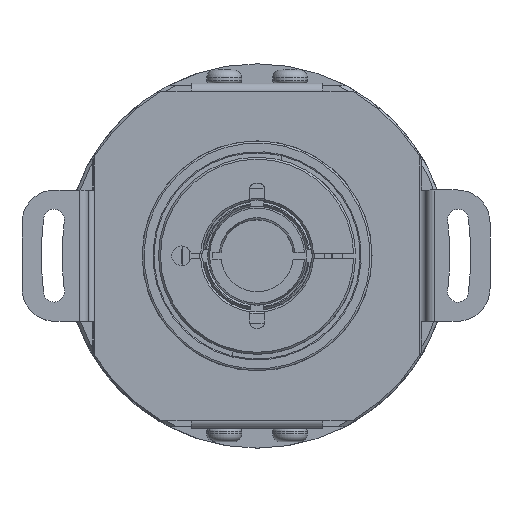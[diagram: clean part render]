
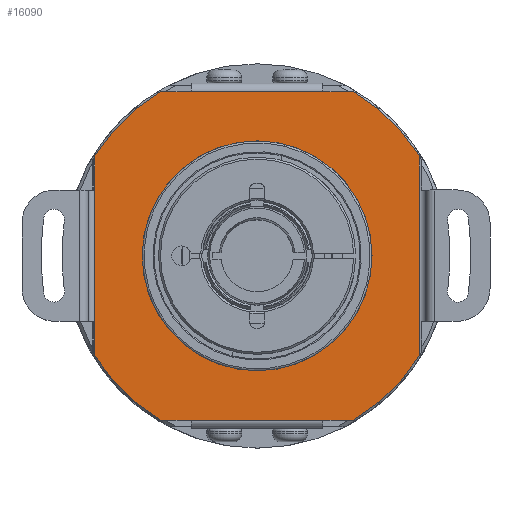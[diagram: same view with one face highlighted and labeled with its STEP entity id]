
A CAD part, top view. The second image highlights one B-rep face of the part: STEP entity #16090.
In plain terms, the highlighted planar face has unit normal (0, 0, 1).
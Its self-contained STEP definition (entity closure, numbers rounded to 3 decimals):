
#266 = PLANE ( 'NONE',  #874 ) ;
#649 = CARTESIAN_POINT ( 'NONE',  ( -10., 25., 4.194 ) ) ;
#874 = AXIS2_PLACEMENT_3D ( 'NONE', #9597, #1871, #12854 ) ;
#1492 = ORIENTED_EDGE ( 'NONE', *, *, #15946, .T. ) ;
#1498 = CARTESIAN_POINT ( 'NONE',  ( -25., -25., 4.194 ) ) ;
#1514 = DIRECTION ( 'NONE',  ( 1., 0., 0. ) ) ;
#1695 = EDGE_CURVE ( 'NONE', #3533, #19803, #9792, .T. ) ;
#1871 = DIRECTION ( 'NONE',  ( 0., 0., 1. ) ) ;
#1934 = CARTESIAN_POINT ( 'NONE',  ( -24.7, 15.196, 4.194 ) ) ;
#1942 = VECTOR ( 'NONE', #12428, 1000. ) ;
#2031 = VERTEX_POINT ( 'NONE', #4953 ) ;
#2106 = ORIENTED_EDGE ( 'NONE', *, *, #6772, .F. ) ;
#2442 = DIRECTION ( 'NONE',  ( 0., 0., 1. ) ) ;
#2524 = EDGE_CURVE ( 'NONE', #10162, #5973, #2688, .T. ) ;
#2688 = LINE ( 'NONE', #17713, #13723 ) ;
#2722 = LINE ( 'NONE', #9016, #14723 ) ;
#2798 = CARTESIAN_POINT ( 'NONE',  ( -24.7, -15.196, 4.194 ) ) ;
#3388 = AXIS2_PLACEMENT_3D ( 'NONE', #9255, #20204, #10864 ) ;
#3533 = VERTEX_POINT ( 'NONE', #17131 ) ;
#3625 = EDGE_CURVE ( 'NONE', #19847, #12250, #6088, .T. ) ;
#3718 = CARTESIAN_POINT ( 'NONE',  ( 0., 0., 4.194 ) ) ;
#3719 = EDGE_CURVE ( 'NONE', #19464, #9636, #4611, .T. ) ;
#3830 = EDGE_CURVE ( 'NONE', #19803, #3533, #19294, .T. ) ;
#3934 = EDGE_CURVE ( 'NONE', #11579, #10162, #17347, .T. ) ;
#3940 = ORIENTED_EDGE ( 'NONE', *, *, #3625, .T. ) ;
#4365 = ORIENTED_EDGE ( 'NONE', *, *, #16796, .F. ) ;
#4506 = LINE ( 'NONE', #7232, #20177 ) ;
#4611 = LINE ( 'NONE', #15769, #8786 ) ;
#4632 = CARTESIAN_POINT ( 'NONE',  ( 10., -25., 4.194 ) ) ;
#4799 = DIRECTION ( 'NONE',  ( 0., 1., 0. ) ) ;
#4953 = CARTESIAN_POINT ( 'NONE',  ( -14.697, -25., 4.194 ) ) ;
#5296 = DIRECTION ( 'NONE',  ( 0., 1., 0. ) ) ;
#5973 = VERTEX_POINT ( 'NONE', #18427 ) ;
#6049 = EDGE_CURVE ( 'NONE', #19847, #13603, #13370, .T. ) ;
#6088 = LINE ( 'NONE', #6094, #1942 ) ;
#6094 = CARTESIAN_POINT ( 'NONE',  ( -5., 25., 4.194 ) ) ;
#6232 = DIRECTION ( 'NONE',  ( -1., 0., 0. ) ) ;
#6548 = AXIS2_PLACEMENT_3D ( 'NONE', #20270, #10937, #1514 ) ;
#6685 = EDGE_CURVE ( 'NONE', #9636, #17039, #13350, .T. ) ;
#6772 = EDGE_CURVE ( 'NONE', #16097, #11579, #7695, .T. ) ;
#6839 = ORIENTED_EDGE ( 'NONE', *, *, #13891, .F. ) ;
#7004 = CARTESIAN_POINT ( 'NONE',  ( 10., 25., 4.194 ) ) ;
#7232 = CARTESIAN_POINT ( 'NONE',  ( 24.7, -35.2, 4.194 ) ) ;
#7512 = ORIENTED_EDGE ( 'NONE', *, *, #13270, .T. ) ;
#7695 = CIRCLE ( 'NONE', #18717, 29. ) ;
#7928 = ORIENTED_EDGE ( 'NONE', *, *, #1695, .F. ) ;
#8292 = DIRECTION ( 'NONE',  ( 0., 0., 1. ) ) ;
#8345 = DIRECTION ( 'NONE',  ( -1., 0., 0. ) ) ;
#8447 = CARTESIAN_POINT ( 'NONE',  ( 0., -17.5, 4.194 ) ) ;
#8622 = CIRCLE ( 'NONE', #3388, 29. ) ;
#8646 = DIRECTION ( 'NONE',  ( 0., 0., -1. ) ) ;
#8691 = ORIENTED_EDGE ( 'NONE', *, *, #6049, .F. ) ;
#8786 = VECTOR ( 'NONE', #4799, 1000. ) ;
#8865 = CARTESIAN_POINT ( 'NONE',  ( 14.697, -25., 4.194 ) ) ;
#9016 = CARTESIAN_POINT ( 'NONE',  ( -10., 25., 4.194 ) ) ;
#9182 = VECTOR ( 'NONE', #18621, 1000. ) ;
#9255 = CARTESIAN_POINT ( 'NONE',  ( 0., 0., 4.194 ) ) ;
#9597 = CARTESIAN_POINT ( 'NONE',  ( -5., -35.2, 4.194 ) ) ;
#9636 = VERTEX_POINT ( 'NONE', #1934 ) ;
#9692 = CARTESIAN_POINT ( 'NONE',  ( -14.697, 25., 4.194 ) ) ;
#9792 = CIRCLE ( 'NONE', #14176, 17.5 ) ;
#10162 = VERTEX_POINT ( 'NONE', #4632 ) ;
#10191 = DIRECTION ( 'NONE',  ( -1., 0., 0. ) ) ;
#10708 = EDGE_LOOP ( 'NONE', ( #13169, #1492, #6839, #17523, #19964, #2106, #7512, #12289, #8691, #3940, #4365, #12830 ) ) ;
#10864 = DIRECTION ( 'NONE',  ( 0., -1., 0. ) ) ;
#10937 = DIRECTION ( 'NONE',  ( 0., 0., 1. ) ) ;
#11579 = VERTEX_POINT ( 'NONE', #8865 ) ;
#11836 = CARTESIAN_POINT ( 'NONE',  ( 0., 0., 4.194 ) ) ;
#11980 = DIRECTION ( 'NONE',  ( 0., 1., 0. ) ) ;
#12250 = VERTEX_POINT ( 'NONE', #649 ) ;
#12289 = ORIENTED_EDGE ( 'NONE', *, *, #15964, .T. ) ;
#12428 = DIRECTION ( 'NONE',  ( -1., 0., 0. ) ) ;
#12830 = ORIENTED_EDGE ( 'NONE', *, *, #6685, .F. ) ;
#12854 = DIRECTION ( 'NONE',  ( 0., -1., 0. ) ) ;
#12957 = AXIS2_PLACEMENT_3D ( 'NONE', #17650, #8292, #19216 ) ;
#13124 = EDGE_LOOP ( 'NONE', ( #18323, #7928 ) ) ;
#13169 = ORIENTED_EDGE ( 'NONE', *, *, #3719, .F. ) ;
#13270 = EDGE_CURVE ( 'NONE', #16097, #18655, #4506, .T. ) ;
#13350 = CIRCLE ( 'NONE', #13498, 29. ) ;
#13370 = LINE ( 'NONE', #17069, #9182 ) ;
#13414 = DIRECTION ( 'NONE',  ( 0., -1., 0. ) ) ;
#13498 = AXIS2_PLACEMENT_3D ( 'NONE', #3718, #14689, #5296 ) ;
#13603 = VERTEX_POINT ( 'NONE', #14690 ) ;
#13723 = VECTOR ( 'NONE', #8345, 1000. ) ;
#13891 = EDGE_CURVE ( 'NONE', #5973, #2031, #19165, .T. ) ;
#14027 = FACE_OUTER_BOUND ( 'NONE', #10708, .T. ) ;
#14176 = AXIS2_PLACEMENT_3D ( 'NONE', #11836, #2442, #13414 ) ;
#14188 = VECTOR ( 'NONE', #10191, 1000. ) ;
#14408 = CARTESIAN_POINT ( 'NONE',  ( 24.7, 15.196, 4.194 ) ) ;
#14506 = FACE_BOUND ( 'NONE', #13124, .T. ) ;
#14689 = DIRECTION ( 'NONE',  ( 0., 0., -1. ) ) ;
#14690 = CARTESIAN_POINT ( 'NONE',  ( 14.697, 25., 4.194 ) ) ;
#14723 = VECTOR ( 'NONE', #19967, 1000. ) ;
#15030 = VECTOR ( 'NONE', #6232, 1000. ) ;
#15769 = CARTESIAN_POINT ( 'NONE',  ( -24.7, -35.2, 4.194 ) ) ;
#15946 = EDGE_CURVE ( 'NONE', #19464, #2031, #8622, .T. ) ;
#15964 = EDGE_CURVE ( 'NONE', #18655, #13603, #19609, .T. ) ;
#15975 = CARTESIAN_POINT ( 'NONE',  ( 24.7, -15.196, 4.194 ) ) ;
#16090 = ADVANCED_FACE ( 'NONE', ( #14027, #14506 ), #266, .T. ) ;
#16097 = VERTEX_POINT ( 'NONE', #15975 ) ;
#16796 = EDGE_CURVE ( 'NONE', #17039, #12250, #2722, .T. ) ;
#17039 = VERTEX_POINT ( 'NONE', #9692 ) ;
#17069 = CARTESIAN_POINT ( 'NONE',  ( 25., 25., 4.194 ) ) ;
#17131 = CARTESIAN_POINT ( 'NONE',  ( 0., 17.5, 4.194 ) ) ;
#17347 = LINE ( 'NONE', #19544, #14188 ) ;
#17523 = ORIENTED_EDGE ( 'NONE', *, *, #2524, .F. ) ;
#17650 = CARTESIAN_POINT ( 'NONE',  ( 0., 0., 4.194 ) ) ;
#17713 = CARTESIAN_POINT ( 'NONE',  ( -5., -25., 4.194 ) ) ;
#18016 = CARTESIAN_POINT ( 'NONE',  ( 0., 0., 4.194 ) ) ;
#18323 = ORIENTED_EDGE ( 'NONE', *, *, #3830, .F. ) ;
#18427 = CARTESIAN_POINT ( 'NONE',  ( -10., -25., 4.194 ) ) ;
#18621 = DIRECTION ( 'NONE',  ( 1., 0., 0. ) ) ;
#18655 = VERTEX_POINT ( 'NONE', #14408 ) ;
#18717 = AXIS2_PLACEMENT_3D ( 'NONE', #18016, #8646, #19558 ) ;
#19165 = LINE ( 'NONE', #1498, #15030 ) ;
#19216 = DIRECTION ( 'NONE',  ( 0., -1., 0. ) ) ;
#19294 = CIRCLE ( 'NONE', #12957, 17.5 ) ;
#19464 = VERTEX_POINT ( 'NONE', #2798 ) ;
#19544 = CARTESIAN_POINT ( 'NONE',  ( 10., -25., 4.194 ) ) ;
#19558 = DIRECTION ( 'NONE',  ( 0., -1., 0. ) ) ;
#19609 = CIRCLE ( 'NONE', #6548, 29. ) ;
#19803 = VERTEX_POINT ( 'NONE', #8447 ) ;
#19847 = VERTEX_POINT ( 'NONE', #7004 ) ;
#19964 = ORIENTED_EDGE ( 'NONE', *, *, #3934, .F. ) ;
#19967 = DIRECTION ( 'NONE',  ( 1., 0., 0. ) ) ;
#20177 = VECTOR ( 'NONE', #11980, 1000. ) ;
#20204 = DIRECTION ( 'NONE',  ( 0., 0., 1. ) ) ;
#20270 = CARTESIAN_POINT ( 'NONE',  ( 0., 0., 4.194 ) ) ;
